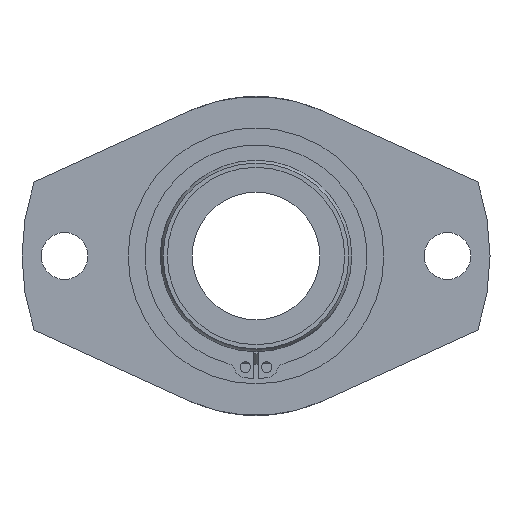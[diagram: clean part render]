
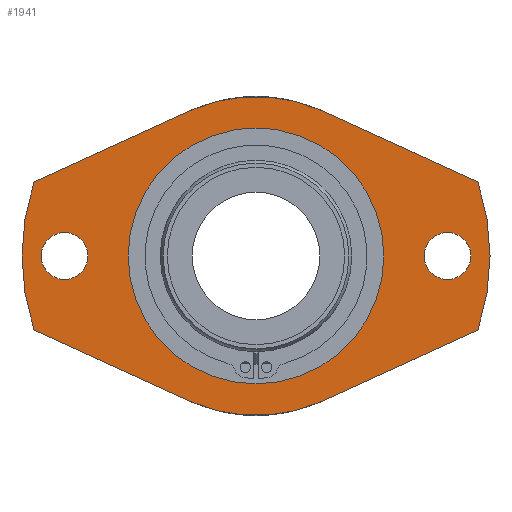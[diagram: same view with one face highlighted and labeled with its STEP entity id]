
A CAD part, left-side view. The second image highlights one B-rep face of the part: STEP entity #1941.
In plain terms, the highlighted planar face has unit normal (-1, 0, 0).
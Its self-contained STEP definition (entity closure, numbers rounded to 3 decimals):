
#1697=CARTESIAN_POINT('',(-11.,-50.5,0.));
#1698=VERTEX_POINT('',#1697);
#1699=CARTESIAN_POINT('',(-11.,-45.0,0.0));
#1700=DIRECTION('',(1.0,0.0,0.0));
#1701=DIRECTION('',(0.0,1.0,0.0));
#1702=AXIS2_PLACEMENT_3D('',#1699,#1700,#1701);
#1703=CIRCLE('',#1702,5.5);
#1704=EDGE_CURVE('',#1698,#1698,#1703,.T.);
#1746=CARTESIAN_POINT('',(-11.,39.5,0.));
#1747=VERTEX_POINT('',#1746);
#1748=CARTESIAN_POINT('',(-11.,45.0,0.0));
#1749=DIRECTION('',(1.0,0.0,0.0));
#1750=DIRECTION('',(0.0,1.0,0.0));
#1751=AXIS2_PLACEMENT_3D('',#1748,#1749,#1750);
#1752=CIRCLE('',#1751,5.5);
#1753=EDGE_CURVE('',#1747,#1747,#1752,.T.);
#1784=CARTESIAN_POINT('',(-11.0,15.551,-34.124));
#1785=VERTEX_POINT('',#1784);
#1792=CARTESIAN_POINT('',(-11.0,52.162,-17.439));
#1793=VERTEX_POINT('',#1792);
#1794=CARTESIAN_POINT('',(-11.0,15.551,-34.124));
#1795=DIRECTION('',(0.0,0.91,0.415));
#1796=VECTOR('',#1795,40.234);
#1797=LINE('',#1794,#1796);
#1798=EDGE_CURVE('',#1785,#1793,#1797,.T.);
#1824=CARTESIAN_POINT('',(-11.0,52.162,17.439));
#1825=VERTEX_POINT('',#1824);
#1826=CARTESIAN_POINT('',(-11.0,0.0,0.));
#1827=DIRECTION('',(1.0,0.0,0.0));
#1828=DIRECTION('',(0.0,1.0,0.0));
#1829=AXIS2_PLACEMENT_3D('',#1826,#1827,#1828);
#1830=CIRCLE('',#1829,55.0);
#1831=EDGE_CURVE('',#1793,#1825,#1830,.T.);
#1856=CARTESIAN_POINT('',(-11.0,15.551,34.124));
#1857=VERTEX_POINT('',#1856);
#1858=CARTESIAN_POINT('',(-11.0,52.162,17.439));
#1859=DIRECTION('',(0.0,-0.91,0.415));
#1860=VECTOR('',#1859,40.234);
#1861=LINE('',#1858,#1860);
#1862=EDGE_CURVE('',#1825,#1857,#1861,.T.);
#1873=CARTESIAN_POINT('',(-11.0,35.07,0.));
#1874=DIRECTION('',(1.0,0.0,0.0));
#1875=DIRECTION('',(0.0,0.0,-1.0));
#1876=AXIS2_PLACEMENT_3D('',#1873,#1874,#1875);
#1877=PLANE('',#1876);
#1878=ORIENTED_EDGE('',*,*,#1798,.F.);
#1879=CARTESIAN_POINT('',(-11.0,-15.551,-34.124));
#1880=VERTEX_POINT('',#1879);
#1881=CARTESIAN_POINT('',(-11.0,0.0,0.));
#1882=DIRECTION('',(1.0,0.0,0.0));
#1883=DIRECTION('',(0.0,1.0,0.0));
#1884=AXIS2_PLACEMENT_3D('',#1881,#1882,#1883);
#1885=CIRCLE('',#1884,37.5);
#1886=EDGE_CURVE('',#1880,#1785,#1885,.T.);
#1887=ORIENTED_EDGE('',*,*,#1886,.F.);
#1888=CARTESIAN_POINT('',(-11.0,-52.162,-17.439));
#1889=VERTEX_POINT('',#1888);
#1890=CARTESIAN_POINT('',(-11.0,-52.162,-17.439));
#1891=DIRECTION('',(0.0,0.91,-0.415));
#1892=VECTOR('',#1891,40.234);
#1893=LINE('',#1890,#1892);
#1894=EDGE_CURVE('',#1889,#1880,#1893,.T.);
#1895=ORIENTED_EDGE('',*,*,#1894,.F.);
#1896=CARTESIAN_POINT('',(-11.0,-52.162,17.439));
#1897=VERTEX_POINT('',#1896);
#1898=CARTESIAN_POINT('',(-11.0,0.0,0.));
#1899=DIRECTION('',(1.0,0.0,0.0));
#1900=DIRECTION('',(0.0,1.0,0.0));
#1901=AXIS2_PLACEMENT_3D('',#1898,#1899,#1900);
#1902=CIRCLE('',#1901,55.0);
#1903=EDGE_CURVE('',#1897,#1889,#1902,.T.);
#1904=ORIENTED_EDGE('',*,*,#1903,.F.);
#1905=CARTESIAN_POINT('',(-11.0,-15.551,34.124));
#1906=VERTEX_POINT('',#1905);
#1907=CARTESIAN_POINT('',(-11.0,-15.551,34.124));
#1908=DIRECTION('',(0.0,-0.91,-0.415));
#1909=VECTOR('',#1908,40.234);
#1910=LINE('',#1907,#1909);
#1911=EDGE_CURVE('',#1906,#1897,#1910,.T.);
#1912=ORIENTED_EDGE('',*,*,#1911,.F.);
#1913=CARTESIAN_POINT('',(-11.0,0.0,0.));
#1914=DIRECTION('',(1.0,0.0,0.0));
#1915=DIRECTION('',(0.0,1.0,0.0));
#1916=AXIS2_PLACEMENT_3D('',#1913,#1914,#1915);
#1917=CIRCLE('',#1916,37.5);
#1918=EDGE_CURVE('',#1857,#1906,#1917,.T.);
#1919=ORIENTED_EDGE('',*,*,#1918,.F.);
#1920=ORIENTED_EDGE('',*,*,#1862,.F.);
#1921=ORIENTED_EDGE('',*,*,#1831,.F.);
#1922=EDGE_LOOP('',(#1878,#1887,#1895,#1904,#1912,#1919,#1920,#1921));
#1923=FACE_OUTER_BOUND('',#1922,.T.);
#1924=ORIENTED_EDGE('',*,*,#1704,.T.);
#1925=EDGE_LOOP('',(#1924));
#1926=FACE_BOUND('',#1925,.T.);
#1927=ORIENTED_EDGE('',*,*,#1753,.T.);
#1928=EDGE_LOOP('',(#1927));
#1929=FACE_BOUND('',#1928,.T.);
#1930=CARTESIAN_POINT('',(-11.0,0.,30.05));
#1931=VERTEX_POINT('',#1930);
#1932=CARTESIAN_POINT('',(-11.0,0.0,0.0));
#1933=DIRECTION('',(1.0,0.0,0.0));
#1934=DIRECTION('',(0.0,0.0,-1.0));
#1935=AXIS2_PLACEMENT_3D('',#1932,#1933,#1934);
#1936=CIRCLE('',#1935,30.05);
#1937=EDGE_CURVE('',#1931,#1931,#1936,.T.);
#1938=ORIENTED_EDGE('',*,*,#1937,.T.);
#1939=EDGE_LOOP('',(#1938));
#1940=FACE_BOUND('',#1939,.T.);
#1941=ADVANCED_FACE('',(#1923,#1926,#1929,#1940),#1877,.F.);
